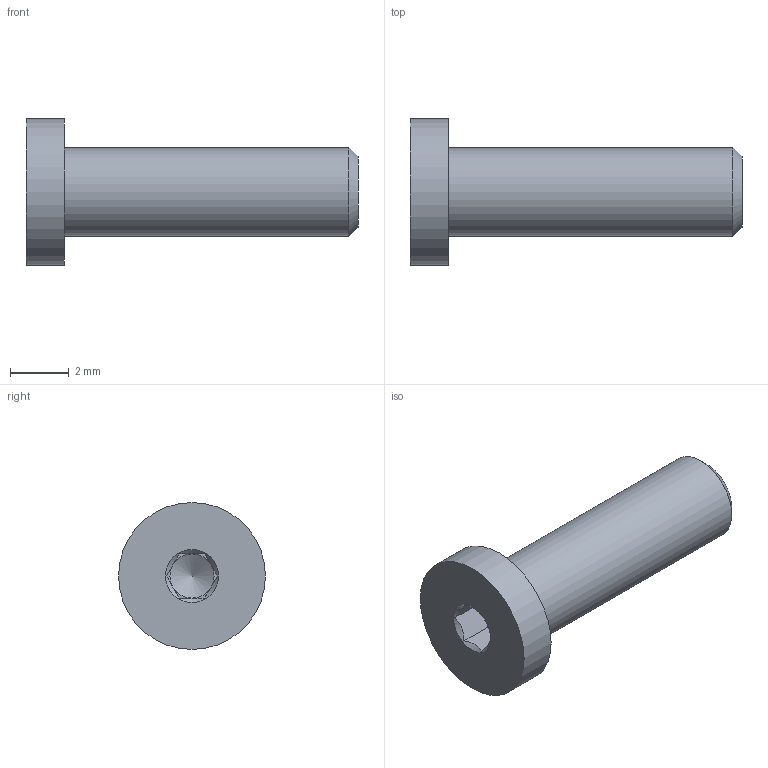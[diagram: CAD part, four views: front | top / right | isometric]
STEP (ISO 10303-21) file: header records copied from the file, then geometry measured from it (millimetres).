
FILE_DESCRIPTION(/* description */ ('STEP AP242 Edition 2','CAx-IF Rec.Pracs.---Representation and Presentation of Product Manufacturing Information (PMI)---4.0---2014-10-13','CAx-IF Rec.Pracs.---3D Tessellated Geometry---0.4---2014-09-14','2;1','CAx-IF Rec.Pracs.---User Defined Attributes---1.5---2016-08-15'),/* implementation_level */ '2;1');
FILE_NAME(/* name */ 'Final Build - M3x10',/* time_stamp */ '2026-08-31T23:26:14Z',/* author */ (''),/* organization */ (''),/* preprocessor_version */ 'ST-DEVELOPER v20',/* originating_system */ 'ONSHAPE BY PTC INC, 1.220',/* authorisation */ ' ');
FILE_SCHEMA (('AP242_MANAGED_MODEL_BASED_3D_ENGINEERING_MIM_LF { 1 0 10303 442 3 1 4 }'));
Length unit declared in the file: metre
Products named in the file (1): M3x10
Bounding box: 11.3 x 5 x 5 mm (x, y, z)
Volume: 91.6 mm3; surface area: 162.5 mm2
Topology: 1 solids, 1 shells, 20 faces, 49 edges, 32 vertices
Faces by surface type: plane 15, cone 3, cylinder 2
Full cylindrical faces by diameter (mm): 3 x1, 5 x1
Entity records: 584 total; most frequent: CARTESIAN_POINT 130, ORIENTED_EDGE 84, DIRECTION 84, EDGE_CURVE 42, AXIS2_PLACEMENT_3D 33, VERTEX_POINT 31, FACE_BOUND 27, EDGE_LOOP 26
